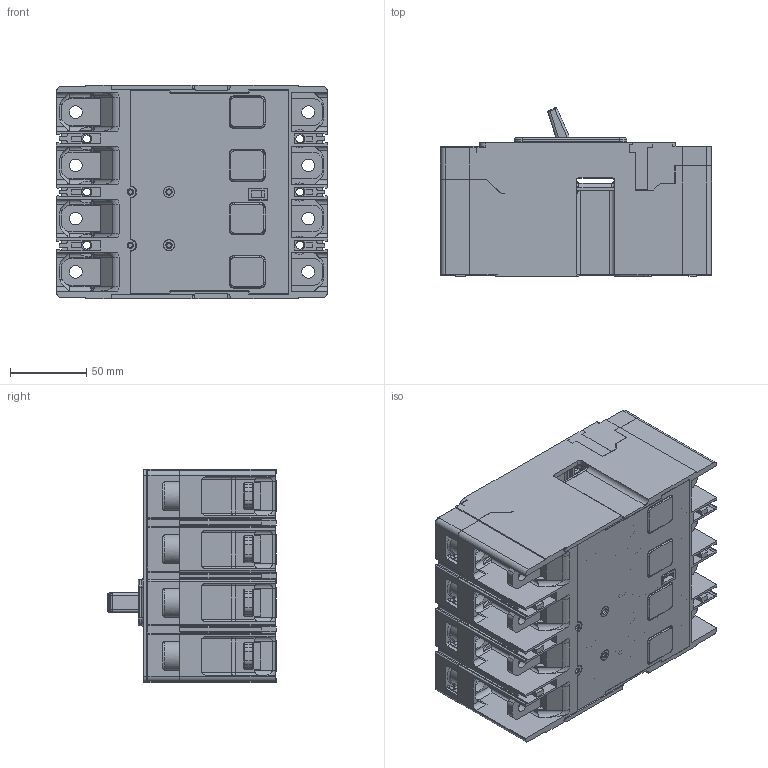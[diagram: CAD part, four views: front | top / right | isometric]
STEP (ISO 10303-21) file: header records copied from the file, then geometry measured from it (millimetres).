
FILE_DESCRIPTION((''),'2;1');
FILE_NAME('JG_4P_SW0001','2005-11-21T',('E0027246'),(''),'PRO/ENGINEER BY PARAMETRIC TECHNOLOGY CORPORATION, 2003010','PRO/ENGINEER BY PARAMETRIC TECHNOLOGY CORPORATION, 2003010','');
FILE_SCHEMA(('CONFIG_CONTROL_DESIGN'));
Products named in the file (1): JG_4P_SW0001
Bounding box: 177.8 x 110.57 x 139.73 mm (x, y, z)
Volume: 550730.5 mm3; surface area: 326345.6 mm2
Topology: 6 solids, 6 shells, 4463 faces, 12230 edges, 7695 vertices
Faces by surface type: plane 2174, cylinder 1650, torus 252, bspline 146, sphere 132, cone 109
Entity records: 151213 total; most frequent: CARTESIAN_POINT 37442, ORIENTED_EDGE 24444, DIRECTION 23371, EDGE_CURVE 12222, AXIS2_PLACEMENT_3D 7846, VERTEX_POINT 7695, VECTOR 7679, LINE 7679
